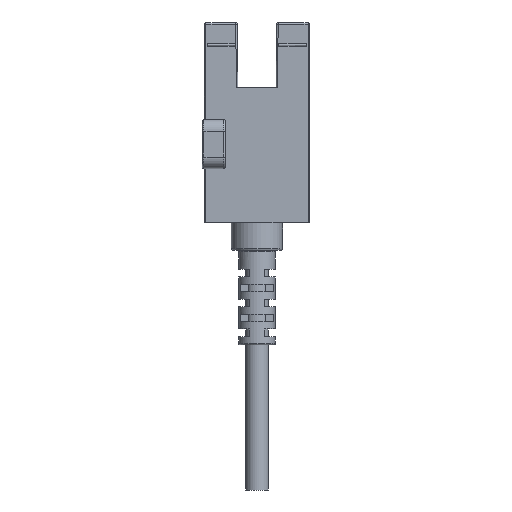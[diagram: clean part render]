
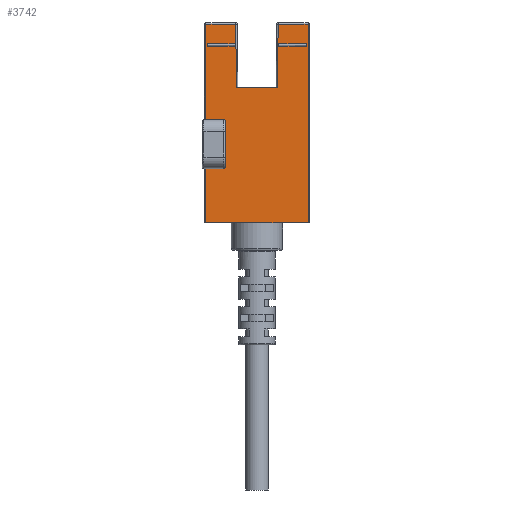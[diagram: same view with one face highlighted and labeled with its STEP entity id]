
A CAD part, front view. The second image highlights one B-rep face of the part: STEP entity #3742.
In plain terms, the highlighted planar face has unit normal (0, -1, 0).
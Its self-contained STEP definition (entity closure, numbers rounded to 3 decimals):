
#198=FACE_BOUND('',#1289,.T.);
#199=FACE_BOUND('',#1290,.T.);
#388=LINE('',#5906,#750);
#389=LINE('',#5908,#751);
#390=LINE('',#5910,#752);
#391=LINE('',#5912,#753);
#392=LINE('',#5914,#754);
#393=LINE('',#5916,#755);
#394=LINE('',#5918,#756);
#395=LINE('',#5920,#757);
#396=LINE('',#5922,#758);
#397=LINE('',#5924,#759);
#398=LINE('',#5926,#760);
#399=LINE('',#5930,#761);
#400=LINE('',#5934,#762);
#401=LINE('',#5936,#763);
#402=LINE('',#5938,#764);
#403=LINE('',#5939,#765);
#404=LINE('',#5942,#766);
#405=LINE('',#5944,#767);
#406=LINE('',#5946,#768);
#407=LINE('',#5947,#769);
#750=VECTOR('',#4744,1.);
#751=VECTOR('',#4745,1.);
#752=VECTOR('',#4746,1.);
#753=VECTOR('',#4747,1.);
#754=VECTOR('',#4748,1.);
#755=VECTOR('',#4749,1.);
#756=VECTOR('',#4750,1.);
#757=VECTOR('',#4751,1.);
#758=VECTOR('',#4752,1.);
#759=VECTOR('',#4753,1.);
#760=VECTOR('',#4754,1.);
#761=VECTOR('',#4757,1.);
#762=VECTOR('',#4760,1.);
#763=VECTOR('',#4761,1.);
#764=VECTOR('',#4762,1.);
#765=VECTOR('',#4763,1.);
#766=VECTOR('',#4764,1.);
#767=VECTOR('',#4765,1.);
#768=VECTOR('',#4766,1.);
#769=VECTOR('',#4767,1.);
#1036=FACE_OUTER_BOUND('',#1288,.T.);
#1288=EDGE_LOOP('',(#2899,#2900,#2901,#2902,#2903,#2904,#2905,#2906,#2907,
#2908,#2909,#2910,#2911,#2912));
#1289=EDGE_LOOP('',(#2913,#2914,#2915,#2916));
#1290=EDGE_LOOP('',(#2917,#2918,#2919,#2920));
#1496=CIRCLE('',#4030,0.2);
#1497=CIRCLE('',#4031,0.2);
#1745=VERTEX_POINT('',#5904);
#1746=VERTEX_POINT('',#5905);
#1747=VERTEX_POINT('',#5907);
#1748=VERTEX_POINT('',#5909);
#1749=VERTEX_POINT('',#5911);
#1750=VERTEX_POINT('',#5913);
#1751=VERTEX_POINT('',#5915);
#1752=VERTEX_POINT('',#5917);
#1753=VERTEX_POINT('',#5919);
#1754=VERTEX_POINT('',#5921);
#1755=VERTEX_POINT('',#5923);
#1756=VERTEX_POINT('',#5925);
#1757=VERTEX_POINT('',#5927);
#1758=VERTEX_POINT('',#5929);
#1759=VERTEX_POINT('',#5932);
#1760=VERTEX_POINT('',#5933);
#1761=VERTEX_POINT('',#5935);
#1762=VERTEX_POINT('',#5937);
#1763=VERTEX_POINT('',#5940);
#1764=VERTEX_POINT('',#5941);
#1765=VERTEX_POINT('',#5943);
#1766=VERTEX_POINT('',#5945);
#2152=EDGE_CURVE('',#1745,#1746,#388,.T.);
#2153=EDGE_CURVE('',#1746,#1747,#389,.T.);
#2154=EDGE_CURVE('',#1748,#1747,#390,.T.);
#2155=EDGE_CURVE('',#1748,#1749,#391,.T.);
#2156=EDGE_CURVE('',#1749,#1750,#392,.T.);
#2157=EDGE_CURVE('',#1750,#1751,#393,.T.);
#2158=EDGE_CURVE('',#1751,#1752,#394,.T.);
#2159=EDGE_CURVE('',#1752,#1753,#395,.T.);
#2160=EDGE_CURVE('',#1753,#1754,#396,.T.);
#2161=EDGE_CURVE('',#1754,#1755,#397,.T.);
#2162=EDGE_CURVE('',#1755,#1756,#398,.T.);
#2163=EDGE_CURVE('',#1756,#1757,#1496,.T.);
#2164=EDGE_CURVE('',#1758,#1757,#399,.T.);
#2165=EDGE_CURVE('',#1758,#1745,#1497,.T.);
#2166=EDGE_CURVE('',#1759,#1760,#400,.T.);
#2167=EDGE_CURVE('',#1759,#1761,#401,.T.);
#2168=EDGE_CURVE('',#1762,#1761,#402,.T.);
#2169=EDGE_CURVE('',#1760,#1762,#403,.T.);
#2170=EDGE_CURVE('',#1763,#1764,#404,.T.);
#2171=EDGE_CURVE('',#1765,#1763,#405,.T.);
#2172=EDGE_CURVE('',#1765,#1766,#406,.T.);
#2173=EDGE_CURVE('',#1764,#1766,#407,.T.);
#2899=ORIENTED_EDGE('',*,*,#2152,.T.);
#2900=ORIENTED_EDGE('',*,*,#2153,.T.);
#2901=ORIENTED_EDGE('',*,*,#2154,.F.);
#2902=ORIENTED_EDGE('',*,*,#2155,.T.);
#2903=ORIENTED_EDGE('',*,*,#2156,.T.);
#2904=ORIENTED_EDGE('',*,*,#2157,.T.);
#2905=ORIENTED_EDGE('',*,*,#2158,.T.);
#2906=ORIENTED_EDGE('',*,*,#2159,.T.);
#2907=ORIENTED_EDGE('',*,*,#2160,.T.);
#2908=ORIENTED_EDGE('',*,*,#2161,.T.);
#2909=ORIENTED_EDGE('',*,*,#2162,.T.);
#2910=ORIENTED_EDGE('',*,*,#2163,.T.);
#2911=ORIENTED_EDGE('',*,*,#2164,.F.);
#2912=ORIENTED_EDGE('',*,*,#2165,.T.);
#2913=ORIENTED_EDGE('',*,*,#2166,.F.);
#2914=ORIENTED_EDGE('',*,*,#2167,.T.);
#2915=ORIENTED_EDGE('',*,*,#2168,.F.);
#2916=ORIENTED_EDGE('',*,*,#2169,.F.);
#2917=ORIENTED_EDGE('',*,*,#2170,.F.);
#2918=ORIENTED_EDGE('',*,*,#2171,.F.);
#2919=ORIENTED_EDGE('',*,*,#2172,.T.);
#2920=ORIENTED_EDGE('',*,*,#2173,.F.);
#3589=PLANE('',#4029);
#3742=ADVANCED_FACE('',(#1036,#198,#199),#3589,.F.);
#4029=AXIS2_PLACEMENT_3D('',#5903,#4742,#4743);
#4030=AXIS2_PLACEMENT_3D('',#5928,#4755,#4756);
#4031=AXIS2_PLACEMENT_3D('',#5931,#4758,#4759);
#4742=DIRECTION('center_axis',(0.,1.,0.));
#4743=DIRECTION('ref_axis',(-1.,0.,0.));
#4744=DIRECTION('',(-1.,0.,0.));
#4745=DIRECTION('',(0.,0.,-1.));
#4746=DIRECTION('',(-1.,0.,0.));
#4747=DIRECTION('',(0.,0.,1.));
#4748=DIRECTION('',(-1.,0.,0.));
#4749=DIRECTION('',(-0.009,0.,-1.));
#4750=DIRECTION('',(-1.,0.,0.));
#4751=DIRECTION('',(-0.009,0.,1.));
#4752=DIRECTION('',(-1.,0.,0.));
#4753=DIRECTION('',(0.,0.,-1.));
#4754=DIRECTION('',(1.,0.,0.));
#4755=DIRECTION('center_axis',(0.,1.,0.));
#4756=DIRECTION('ref_axis',(0.,0.,1.));
#4757=DIRECTION('',(0.,0.,1.));
#4758=DIRECTION('center_axis',(0.,1.,0.));
#4759=DIRECTION('ref_axis',(0.,0.,1.));
#4760=DIRECTION('',(-0.009,0.,1.));
#4761=DIRECTION('',(-1.,0.,0.));
#4762=DIRECTION('',(0.,0.,-1.));
#4763=DIRECTION('',(-1.,0.,0.));
#4764=DIRECTION('',(-1.,0.,0.));
#4765=DIRECTION('',(0.,0.,1.));
#4766=DIRECTION('',(-1.,0.,0.));
#4767=DIRECTION('',(-0.009,0.,-1.));
#5903=CARTESIAN_POINT('Origin',(-3.702,1.454,49.95));
#5904=CARTESIAN_POINT('',(-8.052,1.454,43.95));
#5905=CARTESIAN_POINT('',(-10.402,1.454,43.95));
#5906=CARTESIAN_POINT('',(-3.702,1.454,43.95));
#5907=CARTESIAN_POINT('',(-10.402,1.454,36.85));
#5908=CARTESIAN_POINT('',(-10.402,1.454,36.85));
#5909=CARTESIAN_POINT('',(2.998,1.454,36.85));
#5910=CARTESIAN_POINT('',(-3.702,1.454,36.85));
#5911=CARTESIAN_POINT('',(2.998,1.454,62.85));
#5912=CARTESIAN_POINT('',(2.998,1.454,62.85));
#5913=CARTESIAN_POINT('',(-0.93,1.454,62.85));
#5914=CARTESIAN_POINT('',(-3.702,1.454,62.85));
#5915=CARTESIAN_POINT('',(-1.002,1.454,54.55));
#5916=CARTESIAN_POINT('',(-1.042,1.454,49.927));
#5917=CARTESIAN_POINT('',(-6.402,1.454,54.55));
#5918=CARTESIAN_POINT('',(-3.702,1.454,54.55));
#5919=CARTESIAN_POINT('',(-6.474,1.454,62.85));
#5920=CARTESIAN_POINT('',(-6.362,1.454,49.927));
#5921=CARTESIAN_POINT('',(-10.402,1.454,62.85));
#5922=CARTESIAN_POINT('',(-3.702,1.454,62.85));
#5923=CARTESIAN_POINT('',(-10.402,1.454,50.35));
#5924=CARTESIAN_POINT('',(-10.402,1.454,50.35));
#5925=CARTESIAN_POINT('',(-8.052,1.454,50.35));
#5926=CARTESIAN_POINT('',(-3.702,1.454,50.35));
#5927=CARTESIAN_POINT('',(-7.852,1.454,50.15));
#5928=CARTESIAN_POINT('Origin',(-8.052,1.454,50.15));
#5929=CARTESIAN_POINT('',(-7.852,1.454,44.15));
#5930=CARTESIAN_POINT('',(-7.852,1.454,49.95));
#5931=CARTESIAN_POINT('Origin',(-8.052,1.454,44.15));
#5932=CARTESIAN_POINT('',(-6.55,1.454,60.));
#5933=CARTESIAN_POINT('',(-6.552,1.454,60.3));
#5934=CARTESIAN_POINT('',(-6.494,1.454,53.65));
#5935=CARTESIAN_POINT('',(-10.202,1.454,60.));
#5936=CARTESIAN_POINT('',(-6.502,1.454,60.));
#5937=CARTESIAN_POINT('',(-10.202,1.454,60.3));
#5938=CARTESIAN_POINT('',(-10.202,1.454,60.3));
#5939=CARTESIAN_POINT('',(-6.502,1.454,60.3));
#5940=CARTESIAN_POINT('',(2.798,1.454,60.3));
#5941=CARTESIAN_POINT('',(-0.852,1.454,60.3));
#5942=CARTESIAN_POINT('',(2.798,1.454,60.3));
#5943=CARTESIAN_POINT('',(2.798,1.454,60.));
#5944=CARTESIAN_POINT('',(2.798,1.454,60.));
#5945=CARTESIAN_POINT('',(-0.854,1.454,60.));
#5946=CARTESIAN_POINT('',(2.798,1.454,60.));
#5947=CARTESIAN_POINT('',(-0.84,1.454,61.65));
